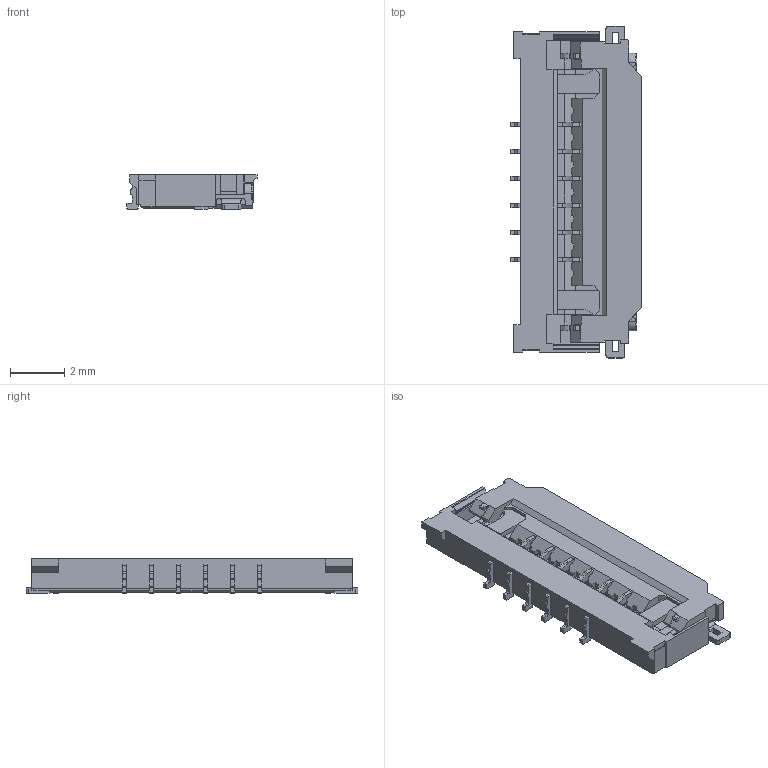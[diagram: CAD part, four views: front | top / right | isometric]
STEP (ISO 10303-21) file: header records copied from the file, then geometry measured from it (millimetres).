
FILE_DESCRIPTION (( 'STEP AP214' ), '1' );
FILE_NAME ('04_6811_606_090_846_+.STEP', '2018-06-13T06:37:47', ( 'Asmin' ), ( '' ), 'SwSTEP 2.0', 'SolidWorks 2014', '' );
FILE_SCHEMA (( 'AUTOMOTIVE_DESIGN' ));
Length unit declared in the file: millimetre
Products named in the file (1): 04_6811_606_090_846_+
Bounding box: 4.79 x 12.23 x 1.28 mm (x, y, z)
Volume: 43.4 mm3; surface area: 229.3 mm2
Topology: 1 solids, 1 shells, 641 faces, 1911 edges, 1262 vertices
Faces by surface type: plane 454, cylinder 183, bspline 4
Entity records: 21737 total; most frequent: CARTESIAN_POINT 4411, ORIENTED_EDGE 3818, DIRECTION 3389, EDGE_CURVE 1909, VECTOR 1517, LINE 1517, VERTEX_POINT 1262, AXIS2_PLACEMENT_3D 936
